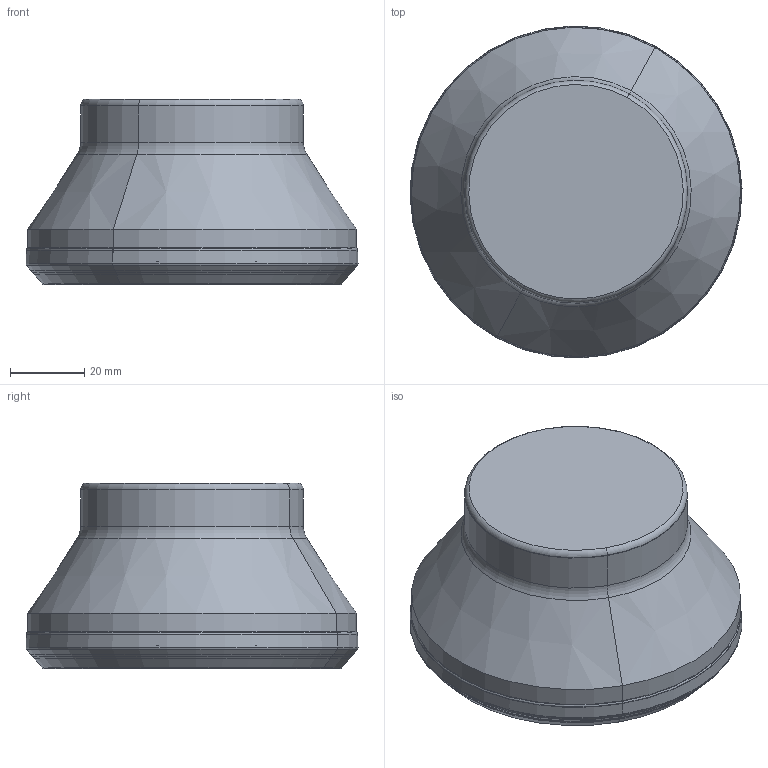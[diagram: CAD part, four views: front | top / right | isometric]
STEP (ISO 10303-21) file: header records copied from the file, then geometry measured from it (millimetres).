
FILE_DESCRIPTION(('CATIA V5 STEP Exchange'),'2;1');
FILE_NAME('I:\isr\design\admin8\users\giries_a\3106526.stp','2012-11-01T10:02:44+00:00',('none'),('none'),'CATIA Version 5 Release 21 SP 3 (IN-10)','CATIA V5 STEP AP214','none');
FILE_SCHEMA(('AUTOMOTIVE_DESIGN { 1 0 10303 214 1 1 1 1 }'));
Length unit declared in the file: millimetre
Products named in the file (1): 61058192_0 Assembly IQ845 FSY D080-06-27-R07
Bounding box: 89.38 x 89.38 x 50 mm (x, y, z)
Volume: 225050.5 mm3; surface area: 31846.9 mm2
Topology: 2 solids, 2 shells, 171 faces, 340 edges, 172 vertices
Faces by surface type: cone 132, torus 28, cylinder 8, plane 3
Entity records: 3723 total; most frequent: ORIENTED_EDGE 680, CARTESIAN_POINT 602, DIRECTION 518, EDGE_CURVE 340, AXIS2_PLACEMENT_3D 290, CIRCLE 200, EDGE_LOOP 172, VERTEX_POINT 172
